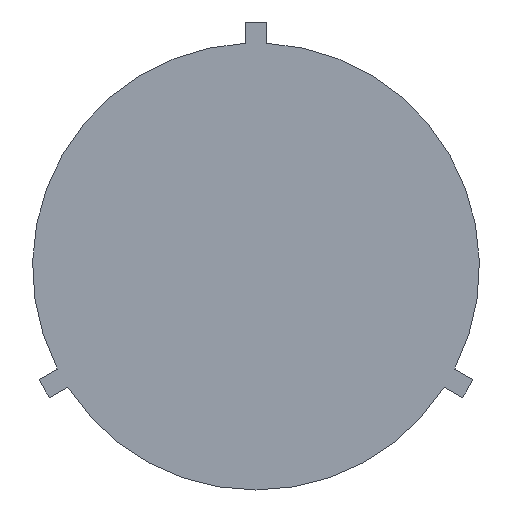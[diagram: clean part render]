
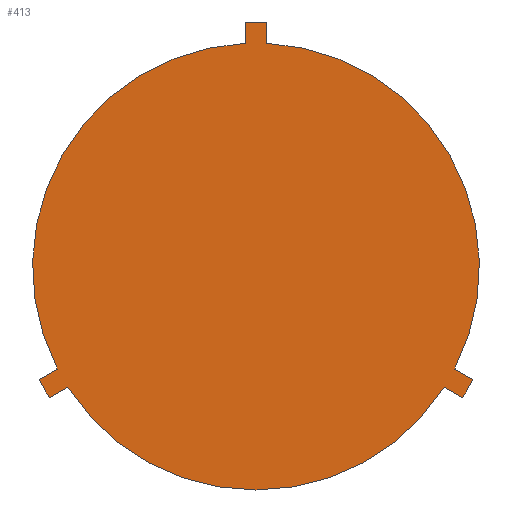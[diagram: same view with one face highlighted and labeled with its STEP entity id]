
A CAD part, left-side view. The second image highlights one B-rep face of the part: STEP entity #413.
In plain terms, the highlighted planar face has unit normal (-1, 0, 0).
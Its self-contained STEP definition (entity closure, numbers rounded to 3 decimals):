
#88=AXIS2_PLACEMENT_3D('Circle Axis2P3D',#86,#87,$) ;
#117=AXIS2_PLACEMENT_3D('Circle Axis2P3D',#115,#116,$) ;
#167=AXIS2_PLACEMENT_3D('Circle Axis2P3D',#165,#166,$) ;
#238=AXIS2_PLACEMENT_3D('Circle Axis2P3D',#236,#237,$) ;
#295=AXIS2_PLACEMENT_3D('Circle Axis2P3D',#293,#294,$) ;
#348=AXIS2_PLACEMENT_3D('Circle Axis2P3D',#346,#347,$) ;
#397=AXIS2_PLACEMENT_3D('Plane Axis2P3D',#394,#395,#396) ;
#41=CARTESIAN_POINT('Vertex',(0.,-4.71,-2.431)) ;
#46=CARTESIAN_POINT('Line Origine',(0.,-4.927,-2.556)) ;
#50=CARTESIAN_POINT('Vertex',(0.,-5.143,-2.681)) ;
#81=CARTESIAN_POINT('Vertex',(0.,-0.25,5.294)) ;
#86=CARTESIAN_POINT('Axis2P3D Location',(0.,0.,0.)) ;
#115=CARTESIAN_POINT('Axis2P3D Location',(0.,0.,0.)) ;
#119=CARTESIAN_POINT('Vertex',(0.,-4.893,-3.114)) ;
#143=CARTESIAN_POINT('Vertex',(0.,-0.25,5.795)) ;
#148=CARTESIAN_POINT('Line Origine',(0.,-0.25,5.544)) ;
#165=CARTESIAN_POINT('Axis2P3D Location',(0.,0.,0.)) ;
#169=CARTESIAN_POINT('Vertex',(0.,4.893,-3.114)) ;
#171=CARTESIAN_POINT('Vertex',(0.,5.143,-2.681)) ;
#205=CARTESIAN_POINT('Line Origine',(0.,4.927,-2.556)) ;
#209=CARTESIAN_POINT('Vertex',(0.,4.71,-2.431)) ;
#236=CARTESIAN_POINT('Axis2P3D Location',(0.,0.,0.)) ;
#240=CARTESIAN_POINT('Vertex',(0.,0.25,5.294)) ;
#267=CARTESIAN_POINT('Line Origine',(0.,0.25,5.544)) ;
#271=CARTESIAN_POINT('Vertex',(0.,0.25,5.795)) ;
#293=CARTESIAN_POINT('Axis2P3D Location',(0.,0.,0.)) ;
#315=CARTESIAN_POINT('Line Origine',(0.,-4.677,-2.989)) ;
#319=CARTESIAN_POINT('Vertex',(0.,-4.46,-2.864)) ;
#346=CARTESIAN_POINT('Axis2P3D Location',(0.,0.,0.)) ;
#350=CARTESIAN_POINT('Vertex',(0.,4.46,-2.864)) ;
#377=CARTESIAN_POINT('Line Origine',(0.,4.677,-2.989)) ;
#394=CARTESIAN_POINT('Axis2P3D Location',(0.,0.,0.)) ;
#47=DIRECTION('Vector Direction',(0.,-0.866,-0.5)) ;
#87=DIRECTION('Axis2P3D Direction',(-1.,-0.,0.)) ;
#116=DIRECTION('Axis2P3D Direction',(1.,0.,0.)) ;
#149=DIRECTION('Vector Direction',(0.,0.,-1.)) ;
#166=DIRECTION('Axis2P3D Direction',(1.,0.,0.)) ;
#206=DIRECTION('Vector Direction',(0.,-0.866,0.5)) ;
#237=DIRECTION('Axis2P3D Direction',(-1.,0.,0.)) ;
#268=DIRECTION('Vector Direction',(0.,0.,1.)) ;
#294=DIRECTION('Axis2P3D Direction',(1.,0.,0.)) ;
#316=DIRECTION('Vector Direction',(0.,0.866,0.5)) ;
#347=DIRECTION('Axis2P3D Direction',(-1.,0.,-0.)) ;
#378=DIRECTION('Vector Direction',(0.,0.866,-0.5)) ;
#395=DIRECTION('Axis2P3D Direction',(1.,0.,0.)) ;
#396=DIRECTION('Axis2P3D XDirection',(0.,1.,0.)) ;
#48=VECTOR('Line Direction',#47,1.) ;
#150=VECTOR('Line Direction',#149,1.) ;
#207=VECTOR('Line Direction',#206,1.) ;
#269=VECTOR('Line Direction',#268,1.) ;
#317=VECTOR('Line Direction',#316,1.) ;
#379=VECTOR('Line Direction',#378,1.) ;
#400=ORIENTED_EDGE('',*,*,#381,.F.) ;
#401=ORIENTED_EDGE('',*,*,#352,.F.) ;
#402=ORIENTED_EDGE('',*,*,#321,.F.) ;
#403=ORIENTED_EDGE('',*,*,#121,.F.) ;
#404=ORIENTED_EDGE('',*,*,#52,.F.) ;
#405=ORIENTED_EDGE('',*,*,#90,.F.) ;
#406=ORIENTED_EDGE('',*,*,#152,.F.) ;
#407=ORIENTED_EDGE('',*,*,#297,.F.) ;
#408=ORIENTED_EDGE('',*,*,#273,.F.) ;
#409=ORIENTED_EDGE('',*,*,#242,.F.) ;
#410=ORIENTED_EDGE('',*,*,#211,.F.) ;
#411=ORIENTED_EDGE('',*,*,#173,.F.) ;
#413=ADVANCED_FACE('\X2\96F64EF651E04F554F53\X0\',(#412),#398,.F.) ;
#89=CIRCLE('generated circle',#88,5.3) ;
#118=CIRCLE('generated circle',#117,5.8) ;
#168=CIRCLE('generated circle',#167,5.8) ;
#239=CIRCLE('generated circle',#238,5.3) ;
#296=CIRCLE('generated circle',#295,5.8) ;
#349=CIRCLE('generated circle',#348,5.3) ;
#52=EDGE_CURVE('',#42,#51,#49,.T.) ;
#90=EDGE_CURVE('',#82,#42,#89,.F.) ;
#121=EDGE_CURVE('',#51,#120,#118,.T.) ;
#152=EDGE_CURVE('',#144,#82,#151,.T.) ;
#173=EDGE_CURVE('',#170,#172,#168,.T.) ;
#211=EDGE_CURVE('',#172,#210,#208,.T.) ;
#242=EDGE_CURVE('',#210,#241,#239,.F.) ;
#273=EDGE_CURVE('',#241,#272,#270,.T.) ;
#297=EDGE_CURVE('',#272,#144,#296,.T.) ;
#321=EDGE_CURVE('',#120,#320,#318,.T.) ;
#352=EDGE_CURVE('',#320,#351,#349,.F.) ;
#381=EDGE_CURVE('',#351,#170,#380,.T.) ;
#399=EDGE_LOOP('',(#400,#401,#402,#403,#404,#405,#406,#407,#408,#409,#410,#411)) ;
#412=FACE_OUTER_BOUND('',#399,.T.) ;
#49=LINE('Line',#46,#48) ;
#151=LINE('Line',#148,#150) ;
#208=LINE('Line',#205,#207) ;
#270=LINE('Line',#267,#269) ;
#318=LINE('Line',#315,#317) ;
#380=LINE('Line',#377,#379) ;
#398=PLANE('Plane',#397) ;
#42=VERTEX_POINT('',#41) ;
#51=VERTEX_POINT('',#50) ;
#82=VERTEX_POINT('',#81) ;
#120=VERTEX_POINT('',#119) ;
#144=VERTEX_POINT('',#143) ;
#170=VERTEX_POINT('',#169) ;
#172=VERTEX_POINT('',#171) ;
#210=VERTEX_POINT('',#209) ;
#241=VERTEX_POINT('',#240) ;
#272=VERTEX_POINT('',#271) ;
#320=VERTEX_POINT('',#319) ;
#351=VERTEX_POINT('',#350) ;
